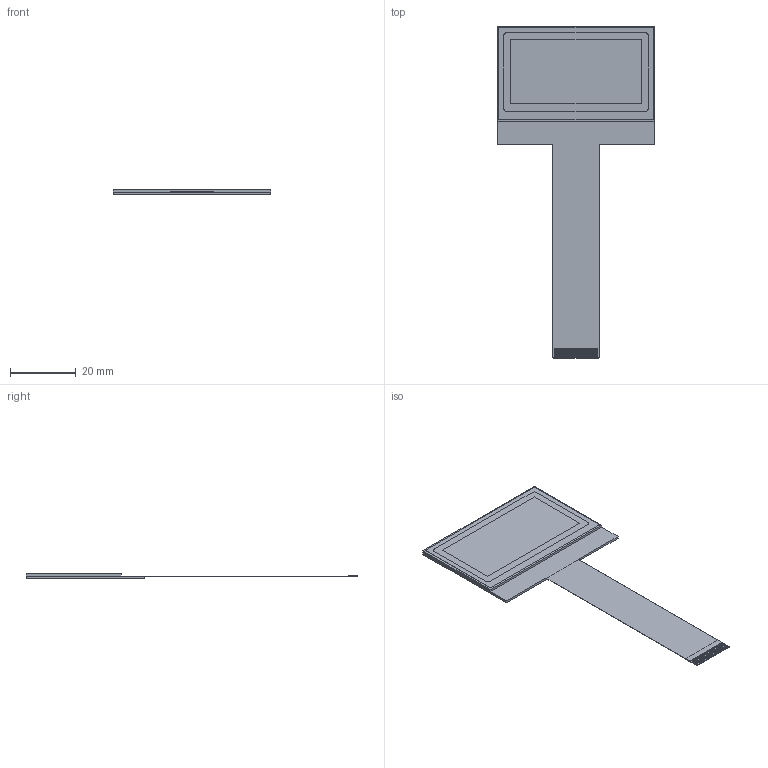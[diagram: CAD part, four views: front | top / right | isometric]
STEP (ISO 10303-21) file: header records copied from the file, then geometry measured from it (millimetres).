
FILE_DESCRIPTION (( 'STEP AP214' ), '1' );
FILE_NAME ('NHD-C12864B2Z-RN.STEP', '2018-03-08T16:15:42', ( '' ), ( '' ), 'SwSTEP 2.0', 'SolidWorks 2018', '' );
FILE_SCHEMA (( 'AUTOMOTIVE_DESIGN' ));
Length unit declared in the file: millimetre
Products named in the file (1): NHD-C12864B2Z-RN
Bounding box: 48 x 101 x 1.8 mm (x, y, z)
Volume: 5019.6 mm3; surface area: 14936.6 mm2
Topology: 5 solids, 5 shells, 150 faces, 420 edges, 280 vertices
Faces by surface type: plane 144, cylinder 6
Entity records: 4806 total; most frequent: CARTESIAN_POINT 851, ORIENTED_EDGE 840, DIRECTION 734, EDGE_CURVE 420, LINE 408, VECTOR 408, VERTEX_POINT 280, AXIS2_PLACEMENT_3D 163
